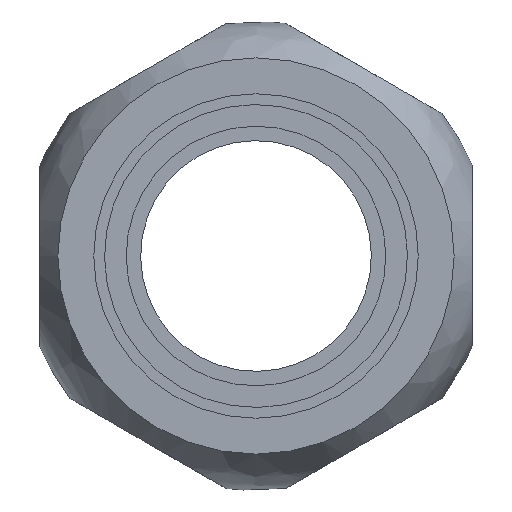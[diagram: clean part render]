
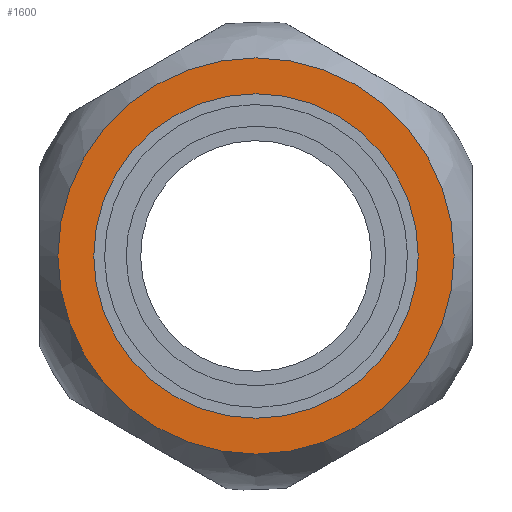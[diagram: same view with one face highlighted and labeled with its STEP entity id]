
A CAD part, left-side view. The second image highlights one B-rep face of the part: STEP entity #1600.
In plain terms, the highlighted planar face has unit normal (-1, 0, 0).
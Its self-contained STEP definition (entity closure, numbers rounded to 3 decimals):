
#1497=CARTESIAN_POINT('',(0.0,13.735,0.0));
#1498=VERTEX_POINT('',#1497);
#1499=CARTESIAN_POINT('',(0.0,0.0,0.0));
#1500=DIRECTION('',(1.0,0.0,0.0));
#1501=DIRECTION('',(0.0,1.0,0.0));
#1502=AXIS2_PLACEMENT_3D('',#1499,#1500,#1501);
#1503=CIRCLE('',#1502,13.735);
#1504=EDGE_CURVE('',#1498,#1498,#1503,.T.);
#1574=CARTESIAN_POINT('',(0.0,11.25,0.0));
#1575=VERTEX_POINT('',#1574);
#1576=CARTESIAN_POINT('',(0.0,0.0,0.0));
#1577=DIRECTION('',(1.0,0.0,0.0));
#1578=DIRECTION('',(0.0,1.0,0.0));
#1579=AXIS2_PLACEMENT_3D('',#1576,#1577,#1578);
#1580=CIRCLE('',#1579,11.25);
#1581=EDGE_CURVE('',#1575,#1575,#1580,.T.);
#1589=CARTESIAN_POINT('',(0.0,12.493,0.0));
#1590=DIRECTION('',(-1.0,0.0,0.0));
#1591=DIRECTION('',(0.0,0.0,1.0));
#1592=AXIS2_PLACEMENT_3D('',#1589,#1590,#1591);
#1593=PLANE('',#1592);
#1594=ORIENTED_EDGE('',*,*,#1504,.F.);
#1595=EDGE_LOOP('',(#1594));
#1596=FACE_OUTER_BOUND('',#1595,.T.);
#1597=ORIENTED_EDGE('',*,*,#1581,.T.);
#1598=EDGE_LOOP('',(#1597));
#1599=FACE_BOUND('',#1598,.T.);
#1600=ADVANCED_FACE('',(#1596,#1599),#1593,.T.);
